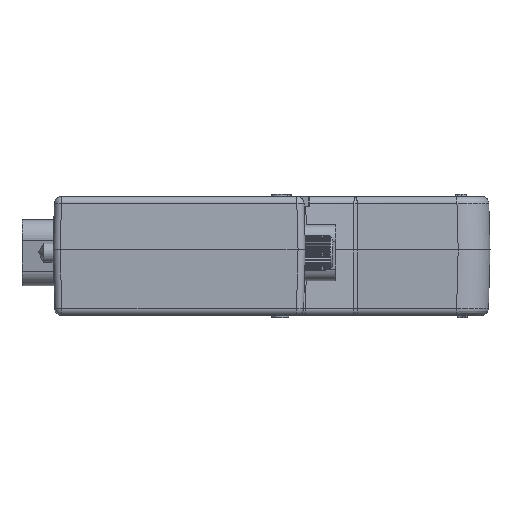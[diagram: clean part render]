
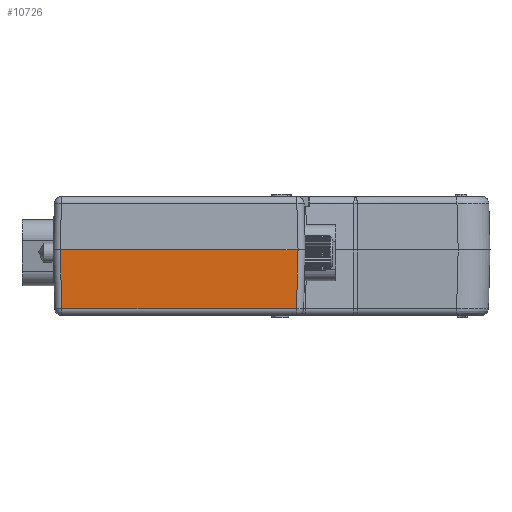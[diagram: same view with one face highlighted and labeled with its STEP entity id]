
A CAD part, left-side view. The second image highlights one B-rep face of the part: STEP entity #10726.
In plain terms, the highlighted planar face has unit normal (-1, 0, -0.026).
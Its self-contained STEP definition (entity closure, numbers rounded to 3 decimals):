
#9160=B_SPLINE_CURVE_WITH_KNOTS('',3,(#67115,#67116,#67117,#67118),.UNSPECIFIED.,
 .F.,.F.,(4,4),(0.,1.),.UNSPECIFIED.);
#10726=ADVANCED_FACE('117131',(#14301),#12711,.T.);
#12711=PLANE('',#50399);
#14301=FACE_OUTER_BOUND('',#16563,.T.);
#16563=EDGE_LOOP('',(#23405,#23406,#23407,#23408));
#23405=ORIENTED_EDGE('',*,*,#37273,.F.);
#23406=ORIENTED_EDGE('',*,*,#38180,.T.);
#23407=ORIENTED_EDGE('',*,*,#37929,.T.);
#23408=ORIENTED_EDGE('',*,*,#38177,.T.);
#33059=VERTEX_POINT('',#67114);
#33060=VERTEX_POINT('',#67119);
#33415=VERTEX_POINT('',#70028);
#33416=VERTEX_POINT('',#70030);
#37273=EDGE_CURVE('',#33059,#33060,#9160,.T.);
#37929=EDGE_CURVE('',#33416,#33415,#43527,.T.);
#38177=EDGE_CURVE('',#33415,#33060,#43670,.T.);
#38180=EDGE_CURVE('',#33059,#33416,#43673,.T.);
#43527=LINE('',#70029,#46954);
#43670=LINE('',#71370,#47097);
#43673=LINE('',#71376,#47100);
#46954=VECTOR('',#55863,1.);
#47097=VECTOR('',#56368,1.);
#47100=VECTOR('',#56377,1.);
#50399=AXIS2_PLACEMENT_3D('',#71378,#56380,#56381);
#55863=DIRECTION('',(0.,-1.,0.));
#56368=DIRECTION('',(-0.026,-0.026,0.999));
#56377=DIRECTION('',(0.026,-0.026,-0.999));
#56380=DIRECTION('',(-1.,0.,-0.026));
#56381=DIRECTION('',(0.026,0.,-1.));
#67114=CARTESIAN_POINT('',(-17.499,-1.,0.));
#67115=CARTESIAN_POINT('',(-17.497,-1.,0.));
#67116=CARTESIAN_POINT('',(-17.497,-12.2,0.));
#67117=CARTESIAN_POINT('',(-17.497,-23.4,0.));
#67118=CARTESIAN_POINT('',(-17.497,-34.6,0.));
#67119=CARTESIAN_POINT('',(-17.499,-34.6,0.));
#70028=CARTESIAN_POINT('',(-17.282,-34.382,-8.326));
#70029=CARTESIAN_POINT('',(-17.282,-35.356,-8.326));
#70030=CARTESIAN_POINT('',(-17.282,-1.218,-8.326));
#71370=CARTESIAN_POINT('',(-17.488,-34.589,-0.439));
#71376=CARTESIAN_POINT('',(-17.488,-1.011,-0.439));
#71378=CARTESIAN_POINT('',(-17.5,-17.8,0.));
